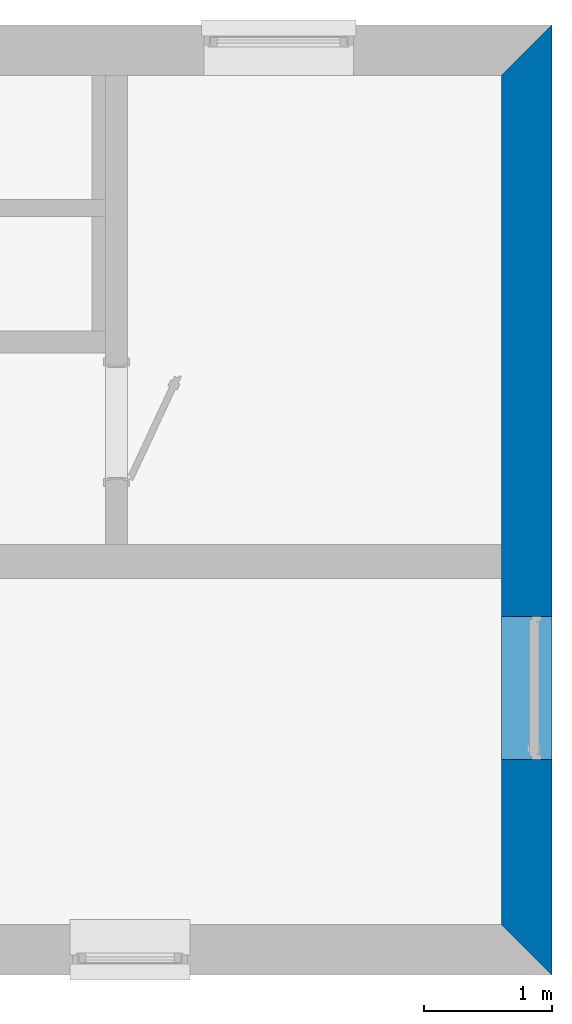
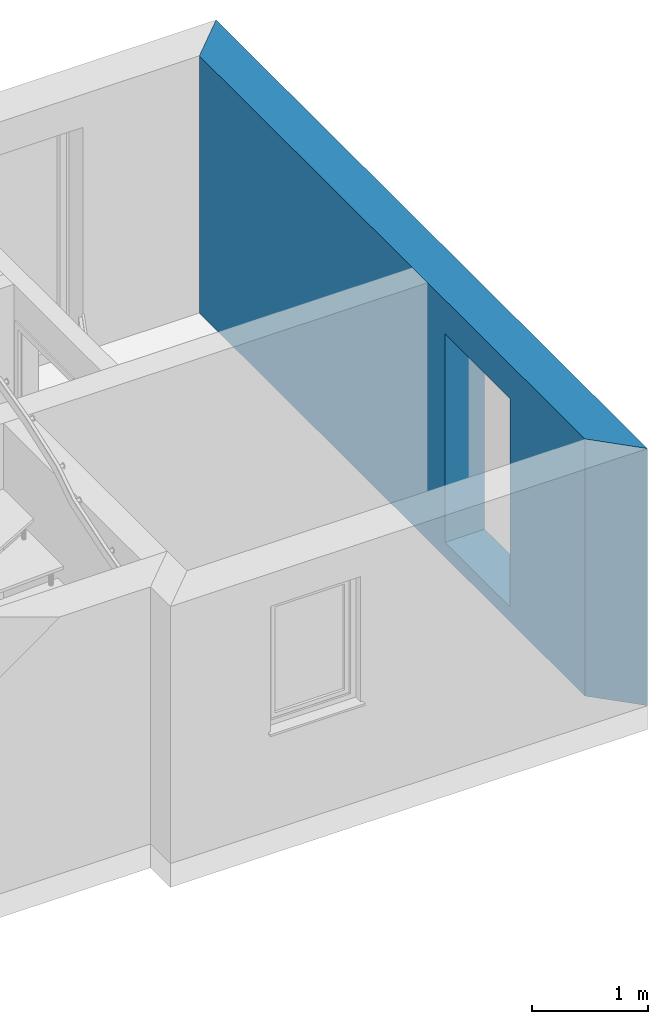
# One storey, part 13 of 13: 1 wall, 1 opening.
"""IFC2X3 building model written with IfcOpenShell, lengths in millimetres."""

from ifc_helpers import new_model, si_unit, frame, origin_with_axes, place, context, project, spatial, faceted_brep, material, layer, layer_set, layer_usage, element, save


model = new_model("IFC2X3")

# Units and contexts
model_context = context("Model", 3, world=origin_with_axes())
ifc_project = project(units=[si_unit("LENGTHUNIT", "METRE", prefix="MILLI")], contexts=[model_context])

# Site, building, storey
site_placement = place(None, origin_with_axes())
site = spatial("IfcSite", under=ifc_project, at=site_placement, Name="Site", CompositionType="ELEMENT")
building_placement = place(site_placement, origin_with_axes())
building = spatial("IfcBuilding", under=site, at=building_placement, Name="?", CompositionType="ELEMENT")
storey_placement = place(building_placement, origin_with_axes())
storey = spatial("IfcBuildingStorey", under=building, at=storey_placement, Name="Erdgeschoß", CompositionType="ELEMENT", Elevation=0.0)

# Wall, opening
ifc_material = material(Name="Material_AW")
ifc_layer = layer(ifc_material, 395.0, ventilated=False)
ifc_layer_set = layer_set([ifc_layer], Name="MaterialLayerSet_AW")
ifc_layer_usage = layer_usage(ifc_layer_set, "AXIS2", "NEGATIVE", 197.5)
wall_placement = place(storey_placement, frame((18102.5, -197.5, 0.0), z_axis=(0.0, 0.0, 1.0), x_axis=(0.0, -1.0, 0.0)))
wall = element("IfcWall", 1, at=wall_placement, inside=storey, material=ifc_layer_usage, Name="AW-02", context=model_context, shape_type="Brep", body=[
    faceted_brep([(6847.49912937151, -197.5, 0.0), (6847.49912937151, -197.5, 2707.0), (197.5, -197.5, 2707.0), (197.5, -197.5, 0.0), (7242.50009495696, 197.5, 0.0), (7242.50009495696, 197.5, 150.0), (7242.50009495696, 197.5, 2707.0), (6847.49912937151, -197.5, 2707.0), (6847.49912937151, -197.5, 0.0), (-197.500732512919, 197.5, 0.0), (-197.500732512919, 197.5, 150.0), (7242.50009495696, 197.5, 150.0), (7242.50009495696, 197.5, 0.0), (-197.500732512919, 197.5, 150.0), (-197.500732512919, 197.5, 2707.0), (7242.50009495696, 197.5, 2707.0), (7242.50009495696, 197.5, 150.0), (197.5, -197.5, 0.0), (197.5, -197.5, 2707.0), (-197.500732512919, 197.5, 2707.0), (-197.500732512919, 197.5, 150.0), (-197.500732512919, 197.5, 0.0), (197.5, -197.5, 0.0), (-197.500732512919, 197.5, 0.0), (7242.50009495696, 197.5, 0.0), (6847.49912937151, -197.5, 0.0), (-197.500732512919, 197.5, 2707.0), (197.5, -197.5, 2707.0), (6847.49912937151, -197.5, 2707.0), (7242.50009495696, 197.5, 2707.0)], [[[0, 1, 2, 3]], [[4, 5, 6, 7, 8]], [[9, 10, 11, 12]], [[13, 14, 15, 16]], [[17, 18, 19, 20, 21]], [[22, 23, 24, 25]], [[26, 27, 28, 29]]]),
])
opening_placement = place(wall_placement, frame((4435.5, 0.0, 156.0), z_axis=(0.0, 0.0, 1.0), x_axis=(1.0, 0.0, 0.0)))
element("IfcOpeningElement", 2, at=opening_placement, cuts=wall, Name="AW-02|HT01", context=model_context, shape_type="Brep", body=[
    faceted_brep([(1120.0, 207.5, 0.0), (0.0, 207.5, 0.0), (0.0, 207.5, 2194.0), (1120.0, 207.5, 2194.0), (1120.0, -207.5, 0.0), (0.0, -207.5, 0.0), (0.0, 207.5, 0.0), (1120.0, 207.5, 0.0), (1120.0, -207.5, 2194.0), (1120.0, -207.5, 0.0), (1120.0, 207.5, 0.0), (1120.0, 207.5, 2194.0), (0.0, -207.5, 2194.0), (1120.0, -207.5, 2194.0), (1120.0, 207.5, 2194.0), (0.0, 207.5, 2194.0), (0.0, -207.5, 0.0), (0.0, -207.5, 2194.0), (0.0, 207.5, 2194.0), (0.0, 207.5, 0.0), (1120.0, -207.5, 0.0), (1120.0, -207.5, 2194.0), (0.0, -207.5, 2194.0), (0.0, -207.5, 0.0)], [[[0, 1, 2, 3]], [[4, 5, 6, 7]], [[8, 9, 10, 11]], [[12, 13, 14, 15]], [[16, 17, 18, 19]], [[20, 21, 22, 23]]]),
])

save(model, "model.ifc")
